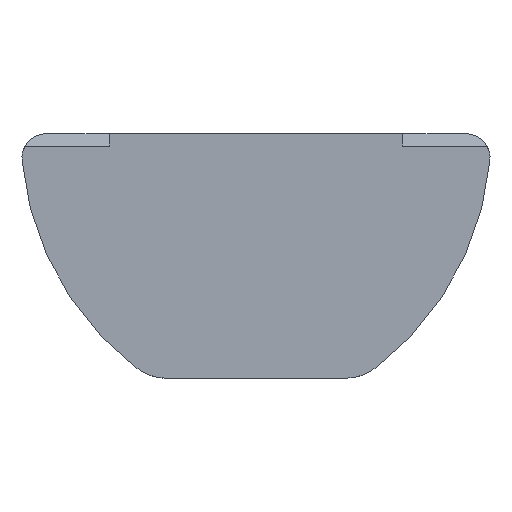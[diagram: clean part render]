
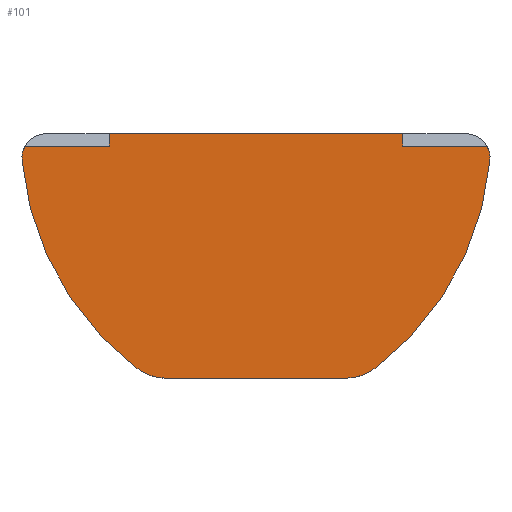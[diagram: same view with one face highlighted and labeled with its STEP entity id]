
A CAD part, front view. The second image highlights one B-rep face of the part: STEP entity #101.
In plain terms, the highlighted planar face has unit normal (0, -1, 0).
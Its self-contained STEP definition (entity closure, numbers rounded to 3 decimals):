
#101 = ADVANCED_FACE ( 'NONE', ( #2978 ), #2339, .T. ) ;
#111 = CARTESIAN_POINT ( 'NONE',  ( 1.831, -7.8, -5. ) ) ;
#181 = DIRECTION ( 'NONE',  ( 0., 0., -1. ) ) ;
#263 = CARTESIAN_POINT ( 'NONE',  ( -4.788, -7.8, -0.25 ) ) ;
#273 = EDGE_CURVE ( 'NONE', #2375, #604, #952, .T. ) ;
#278 = CARTESIAN_POINT ( 'NONE',  ( -4.288, -7.8, -0.25 ) ) ;
#299 = CARTESIAN_POINT ( 'NONE',  ( 1.831, -7.8, -5. ) ) ;
#481 = VERTEX_POINT ( 'NONE', #1785 ) ;
#511 = ORIENTED_EDGE ( 'NONE', *, *, #3853, .T. ) ;
#532 = DIRECTION ( 'NONE',  ( 1., 0., 0. ) ) ;
#535 = CARTESIAN_POINT ( 'NONE',  ( -2.435, -7.8, -4.797 ) ) ;
#604 = VERTEX_POINT ( 'NONE', #1181 ) ;
#606 = CARTESIAN_POINT ( 'NONE',  ( -3., -7.8, 0. ) ) ;
#772 = EDGE_CURVE ( 'NONE', #3144, #3163, #3846, .T. ) ;
#839 = ORIENTED_EDGE ( 'NONE', *, *, #2227, .T. ) ;
#848 = VECTOR ( 'NONE', #4696, 1000. ) ;
#893 = CARTESIAN_POINT ( 'NONE',  ( -4.288, -7.8, -0.5 ) ) ;
#952 = CIRCLE ( 'NONE', #4185, 6. ) ;
#983 = LINE ( 'NONE', #278, #848 ) ;
#1019 = CARTESIAN_POINT ( 'NONE',  ( -4.288, -7.8, -0.5 ) ) ;
#1050 = DIRECTION ( 'NONE',  ( -1., 0., 0. ) ) ;
#1140 = VECTOR ( 'NONE', #5428, 1000. ) ;
#1168 = EDGE_CURVE ( 'NONE', #1538, #4108, #983, .T. ) ;
#1181 = CARTESIAN_POINT ( 'NONE',  ( 4.786, -7.8, -0.544 ) ) ;
#1195 = ORIENTED_EDGE ( 'NONE', *, *, #2179, .T. ) ;
#1196 = CARTESIAN_POINT ( 'NONE',  ( 1.19, -7.8, -0.016 ) ) ;
#1199 = ORIENTED_EDGE ( 'NONE', *, *, #3923, .T. ) ;
#1285 = CARTESIAN_POINT ( 'NONE',  ( 4.721, -7.8, -0.25 ) ) ;
#1289 = ORIENTED_EDGE ( 'NONE', *, *, #4904, .T. ) ;
#1327 = VECTOR ( 'NONE', #3701, 1000. ) ;
#1352 = DIRECTION ( 'NONE',  ( 0., 0., -1. ) ) ;
#1449 = VERTEX_POINT ( 'NONE', #3369 ) ;
#1468 = AXIS2_PLACEMENT_3D ( 'NONE', #5254, #2611, #5702 ) ;
#1538 = VERTEX_POINT ( 'NONE', #1285 ) ;
#1544 = EDGE_CURVE ( 'NONE', #604, #1538, #3904, .T. ) ;
#1644 = DIRECTION ( 'NONE',  ( 0., 0., -1. ) ) ;
#1785 = CARTESIAN_POINT ( 'NONE',  ( 3., -7.8, 0. ) ) ;
#1846 = ORIENTED_EDGE ( 'NONE', *, *, #4260, .T. ) ;
#1849 = CARTESIAN_POINT ( 'NONE',  ( -3., -7.8, -0.25 ) ) ;
#1911 = DIRECTION ( 'NONE',  ( 0., 0., -1. ) ) ;
#2003 = EDGE_CURVE ( 'NONE', #5708, #2165, #3593, .T. ) ;
#2030 = CARTESIAN_POINT ( 'NONE',  ( -1.19, -7.8, -0.016 ) ) ;
#2165 = VERTEX_POINT ( 'NONE', #1849 ) ;
#2179 = EDGE_CURVE ( 'NONE', #3163, #1449, #2586, .T. ) ;
#2227 = EDGE_CURVE ( 'NONE', #4108, #481, #4807, .T. ) ;
#2233 = AXIS2_PLACEMENT_3D ( 'NONE', #5470, #2825, #181 ) ;
#2315 = CARTESIAN_POINT ( 'NONE',  ( -1.831, -7.8, -4. ) ) ;
#2331 = CIRCLE ( 'NONE', #2670, 0.5 ) ;
#2339 = PLANE ( 'NONE',  #3694 ) ;
#2375 = VERTEX_POINT ( 'NONE', #4218 ) ;
#2481 = DIRECTION ( 'NONE',  ( 0., 0., -1. ) ) ;
#2586 = CIRCLE ( 'NONE', #2922, 1. ) ;
#2600 = CARTESIAN_POINT ( 'NONE',  ( -4.721, -7.8, -0.25 ) ) ;
#2611 = DIRECTION ( 'NONE',  ( 0., -1., 0. ) ) ;
#2670 = AXIS2_PLACEMENT_3D ( 'NONE', #893, #4001, #1352 ) ;
#2760 = DIRECTION ( 'NONE',  ( 0., 0., -1. ) ) ;
#2781 = CARTESIAN_POINT ( 'NONE',  ( 3., -7.8, 0. ) ) ;
#2812 = CARTESIAN_POINT ( 'NONE',  ( -4.288, -7.8, 0. ) ) ;
#2825 = DIRECTION ( 'NONE',  ( 0., -1., 0. ) ) ;
#2894 = CIRCLE ( 'NONE', #2233, 1. ) ;
#2895 = DIRECTION ( 'NONE',  ( 1., 0., 0. ) ) ;
#2922 = AXIS2_PLACEMENT_3D ( 'NONE', #2315, #5410, #2760 ) ;
#2978 = FACE_OUTER_BOUND ( 'NONE', #4196, .T. ) ;
#3077 = VECTOR ( 'NONE', #532, 1000. ) ;
#3144 = VERTEX_POINT ( 'NONE', #3156 ) ;
#3156 = CARTESIAN_POINT ( 'NONE',  ( -4.786, -7.8, -0.544 ) ) ;
#3163 = VERTEX_POINT ( 'NONE', #535 ) ;
#3177 = CARTESIAN_POINT ( 'NONE',  ( -3., -7.8, 0. ) ) ;
#3243 = AXIS2_PLACEMENT_3D ( 'NONE', #1196, #4275, #1644 ) ;
#3299 = EDGE_CURVE ( 'NONE', #2165, #3876, #3395, .T. ) ;
#3369 = CARTESIAN_POINT ( 'NONE',  ( -1.831, -7.8, -5. ) ) ;
#3395 = LINE ( 'NONE', #606, #1327 ) ;
#3593 = LINE ( 'NONE', #263, #4797 ) ;
#3694 = AXIS2_PLACEMENT_3D ( 'NONE', #1019, #4549, #1911 ) ;
#3701 = DIRECTION ( 'NONE',  ( 0., 0., 1. ) ) ;
#3841 = ORIENTED_EDGE ( 'NONE', *, *, #772, .T. ) ;
#3846 = CIRCLE ( 'NONE', #3243, 6. ) ;
#3853 = EDGE_CURVE ( 'NONE', #1449, #4510, #4277, .T. ) ;
#3876 = VERTEX_POINT ( 'NONE', #3177 ) ;
#3904 = CIRCLE ( 'NONE', #1468, 0.5 ) ;
#3923 = EDGE_CURVE ( 'NONE', #481, #3876, #5181, .T. ) ;
#3996 = VECTOR ( 'NONE', #1050, 1000. ) ;
#4001 = DIRECTION ( 'NONE',  ( 0., -1., 0. ) ) ;
#4108 = VERTEX_POINT ( 'NONE', #5174 ) ;
#4185 = AXIS2_PLACEMENT_3D ( 'NONE', #2030, #5119, #2481 ) ;
#4196 = EDGE_LOOP ( 'NONE', ( #4481, #1846, #3841, #1195, #511, #1289, #4489, #4618, #4522, #839, #1199, #5358 ) ) ;
#4218 = CARTESIAN_POINT ( 'NONE',  ( 2.435, -7.8, -4.797 ) ) ;
#4260 = EDGE_CURVE ( 'NONE', #5708, #3144, #2331, .T. ) ;
#4275 = DIRECTION ( 'NONE',  ( 0., -1., 0. ) ) ;
#4277 = LINE ( 'NONE', #111, #3077 ) ;
#4481 = ORIENTED_EDGE ( 'NONE', *, *, #2003, .F. ) ;
#4489 = ORIENTED_EDGE ( 'NONE', *, *, #273, .T. ) ;
#4510 = VERTEX_POINT ( 'NONE', #299 ) ;
#4522 = ORIENTED_EDGE ( 'NONE', *, *, #1168, .T. ) ;
#4549 = DIRECTION ( 'NONE',  ( 0., -1., 0. ) ) ;
#4618 = ORIENTED_EDGE ( 'NONE', *, *, #1544, .T. ) ;
#4696 = DIRECTION ( 'NONE',  ( -1., 0., 0. ) ) ;
#4797 = VECTOR ( 'NONE', #2895, 1000. ) ;
#4807 = LINE ( 'NONE', #2781, #1140 ) ;
#4904 = EDGE_CURVE ( 'NONE', #4510, #2375, #2894, .T. ) ;
#5119 = DIRECTION ( 'NONE',  ( 0., -1., 0. ) ) ;
#5174 = CARTESIAN_POINT ( 'NONE',  ( 3., -7.8, -0.25 ) ) ;
#5181 = LINE ( 'NONE', #2812, #3996 ) ;
#5254 = CARTESIAN_POINT ( 'NONE',  ( 4.288, -7.8, -0.5 ) ) ;
#5358 = ORIENTED_EDGE ( 'NONE', *, *, #3299, .F. ) ;
#5410 = DIRECTION ( 'NONE',  ( 0., -1., 0. ) ) ;
#5428 = DIRECTION ( 'NONE',  ( 0., 0., 1. ) ) ;
#5470 = CARTESIAN_POINT ( 'NONE',  ( 1.831, -7.8, -4. ) ) ;
#5702 = DIRECTION ( 'NONE',  ( 0., 0., -1. ) ) ;
#5708 = VERTEX_POINT ( 'NONE', #2600 ) ;
